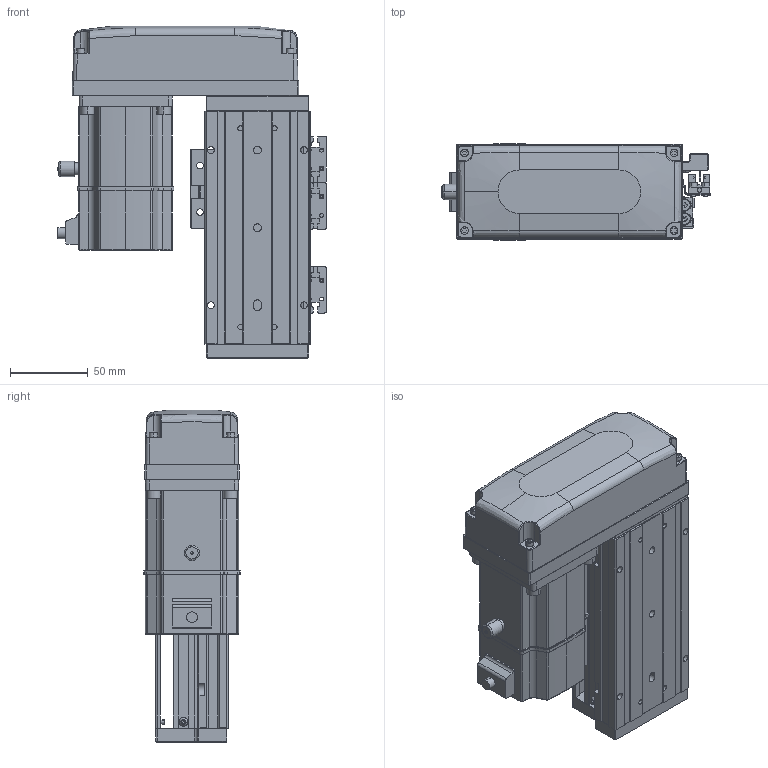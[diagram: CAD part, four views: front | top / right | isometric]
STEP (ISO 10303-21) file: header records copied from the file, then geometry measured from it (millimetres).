
FILE_DESCRIPTION (( 'STEP AP203' ), '1' );
FILE_NAME ('KTHA60-50-BR-M20-C4L.step', '2022-12-16T01:39:28', ( '微软用户' ), ( '微软中国' ), 'SwSTEP 2.0', 'SolidWorks 2020', '' );
FILE_SCHEMA (( 'CONFIG_CONTROL_DESIGN' ));
Length unit declared in the file: millimetre
Products named in the file (17): GB¨uT 70.2-M3¡Á5_M3¡Á6; GBT 70.1-M3℅6; GBT 70.3-M3℅6; CTHA60-016; EE_SX911P_R; KTHA60-002; CTHA60-017; BTH80-026; KTHA60-001_150; CTHA60-021; CTHA60-006-2_CTHA60-006-2; KTHA60-004; GBT 70.1-M4×16; _X2_4E0983F1_X0_200W_1; KTHA60-005; GBT77-2000M3-3; KTHA60-50-BR-M20-C4L
Assembly tree (51 placements, depth 2):
  KTHA60-50-BR-M20-C4L
    KTHA60-001_150
    KTHA60-004
    KTHA60-005
    GB¨uT 70.2-M3¡Á5_M3¡Á6  x6
    GBT 70.3-M3℅6  x4
    EE_SX911P_R  x3
    CTHA60-017  x3
    CTHA60-021  x2
    GBT 70.1-M4×16  x8
    GBT77-2000M3-3  x6
    GBT 70.1-M3℅6  x10
    CTHA60-016  x2
    KTHA60-002
    BTH80-026
    CTHA60-006-2_CTHA60-006-2
    _X2_4E0983F1_X0_200W_1
Bounding box: 173.02 x 62.42 x 214 mm (x, y, z)
Volume: 796756.3 mm3; surface area: 209309.9 mm2
Topology: 54 solids, 54 shells, 2348 faces, 5549 edges, 3406 vertices
Faces by surface type: plane 1237, cylinder 620, cone 274, bspline 109, torus 92, sphere 16
Entity records: 42302 total; most frequent: CARTESIAN_POINT 10034, DIRECTION 6148, ORIENTED_EDGE 6146, EDGE_CURVE 3073, AXIS2_PLACEMENT_3D 2139, VERTEX_POINT 1915, VECTOR 1870, LINE 1870
